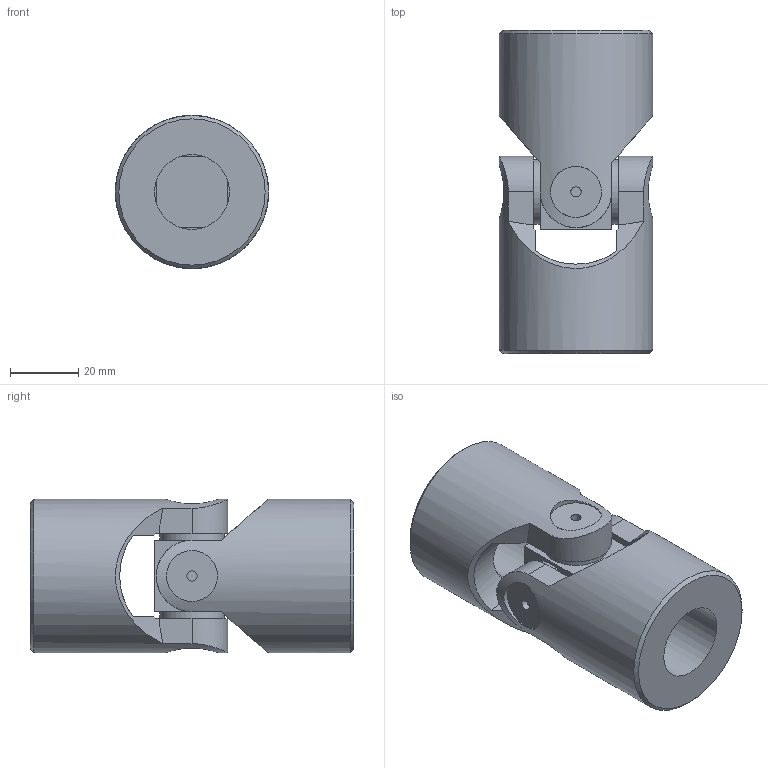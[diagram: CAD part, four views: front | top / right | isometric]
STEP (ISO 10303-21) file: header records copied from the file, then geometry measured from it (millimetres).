
FILE_DESCRIPTION(/* description */ (''),/* implementation_level */ '2;1');
FILE_NAME(/* name */ '\\SRV2016\Societa\Stefano\Disegni 3D\Dis. Clienti\0000Catalogo 3D\01Singoli G-GB\4G-00_SG0S2200.stp',/* time_stamp */ '2021-11-10T10:31:58+01:00',/* author */ ('acquisti'),/* organization */ (''),/* preprocessor_version */ 'ST-DEVELOPER v15.6',/* originating_system */ 'Autodesk Inventor 2015',/* authorisation */ '');
FILE_SCHEMA (('AUTOMOTIVE_DESIGN { 1 0 10303 214 3 1 1 }'));
Length unit declared in the file: millimetre
Products named in the file (3): 4GA SFE; 4G MOS; Assieme1
Assembly tree (3 placements, depth 2):
  Assieme1
    4GA SFE
    4G MOS  x2
Bounding box: 45 x 95 x 45 mm (x, y, z)
Volume: 100967.7 mm3; surface area: 26178.5 mm2
Topology: 3 solids, 3 shells, 72 faces, 170 edges, 114 vertices
Faces by surface type: plane 36, cylinder 22, cone 12, torus 2
Full cylindrical faces by diameter (mm): 3 x4, 15 x4, 19 x4, 22 x2, 23 x2, 45 x2
Entity records: 1383 total; most frequent: CARTESIAN_POINT 432, DIRECTION 184, ORIENTED_EDGE 164, EDGE_CURVE 82, AXIS2_PLACEMENT_3D 80, EDGE_LOOP 66, VERTEX_POINT 64, FACE_OUTER_BOUND 43
